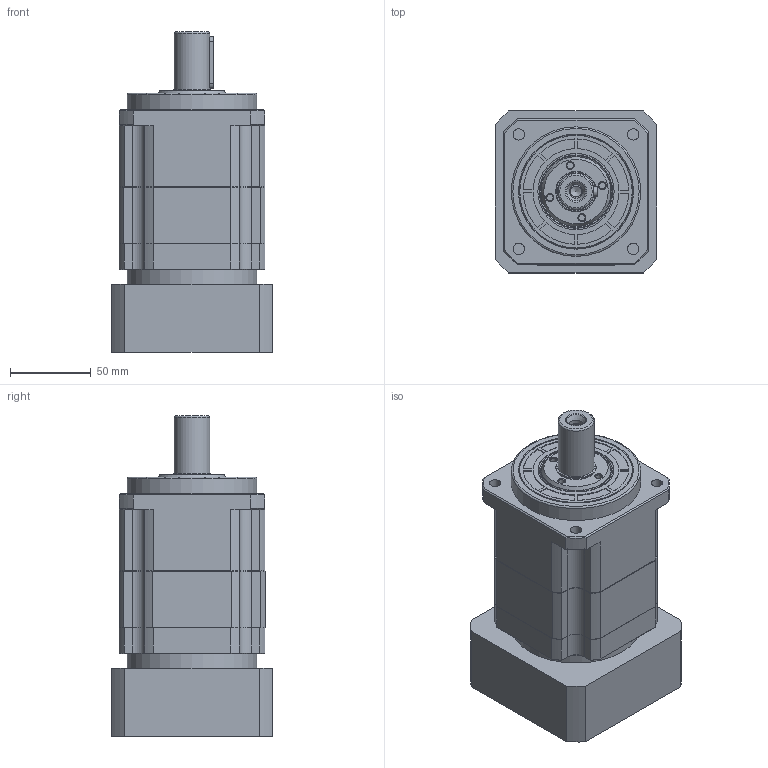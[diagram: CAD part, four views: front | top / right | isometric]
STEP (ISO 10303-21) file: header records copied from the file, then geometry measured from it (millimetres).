
FILE_DESCRIPTION(/* description */ (''),/* implementation_level */ '2;1');
FILE_NAME(/* name */ '分体TB090-L2-19-95-115-M8-60.5-12.stp',/* time_stamp */ '2020-11-24T14:14:36+08:00',/* author */ (''),/* organization */ (''),/* preprocessor_version */ 'ST-DEVELOPER v16',/* originating_system */ 'SIEMENS PLM Software NX 10.0',/* authorisation */ '');
FILE_SCHEMA (('CONFIG_CONTROL_DESIGN'));
Length unit declared in the file: millimetre
Products named in the file (1): _model291
Bounding box: 100 x 100 x 197.85 mm (x, y, z)
Volume: 1001334.9 mm3; surface area: 160910.6 mm2
Topology: 7 solids, 8 shells, 458 faces, 1107 edges, 708 vertices
Faces by surface type: plane 192, cylinder 150, cone 99, torus 17
Full cylindrical faces by diameter (mm): 4 x4, 4.2 x10, 5.2 x1, 5.5 x10, 6.5 x1, 6.8 x5, 7 x4, 8.4 x1, 9 x6, 12.1 x1, 19 x1, 22 x2, 25 x1, 26.6 x2, 27.5 x2, 28 x4, 31 x2, 38 x1, 40 x1, 47.1 x1, 55 x1, 66 x1, 70 x2, 70.999 x1, 76 x1, 80 x3, 85 x1, 95 x1
Entity records: 12598 total; most frequent: CARTESIAN_POINT 2364, DIRECTION 2187, ORIENTED_EDGE 1838, EDGE_CURVE 919, AXIS2_PLACEMENT_3D 880, EDGE_LOOP 672, VERTEX_POINT 668, ADVANCED_FACE 458
